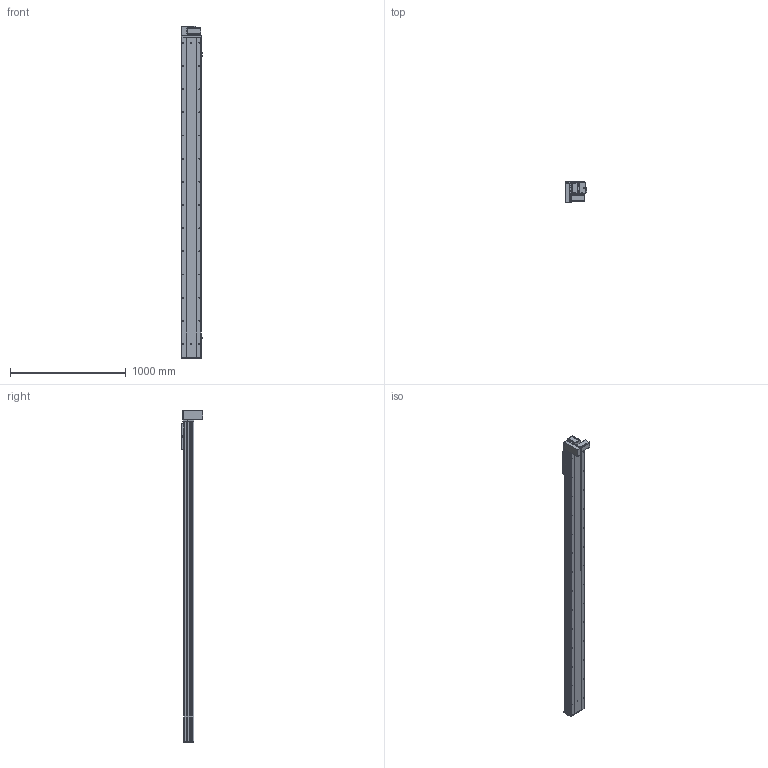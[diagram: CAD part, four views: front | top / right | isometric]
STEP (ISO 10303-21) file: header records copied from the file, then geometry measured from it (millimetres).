
FILE_DESCRIPTION (( 'STEP AP203' ), '1' );
FILE_NAME ('Y170CB-D105-S2450-BM-P400W.STEP', '2020-02-20T07:42:31', ( '微软用户' ), ( '微软中国' ), 'SwSTEP 2.0', 'SolidWorks 2017', '' );
FILE_SCHEMA (( 'CONFIG_CONTROL_DESIGN' ));
Length unit declared in the file: millimetre
Products named in the file (18): B-源倛裔啣; Y170CB-D105-S2450-BM-P400W; 0C--雄赽釱俋欶-170; 0B-萇儂楊擘啣; 70CB-詩湍--; san松下电机400不带刹车----; Y100-135俋离換覜ん--; 70CB-掛极-; Y170CB-陔俋离換覜結え---; --70CB --喘謫眊楊擘啣-; Y1埴倛裔; 70CB-耜裔啣-; 17B-耜蚾蟀諉啣----; 70C--詩湍揤踡え-; 00B-俋欶BM--163; 70CB--耜裔; 70B喘謫眊----; 70C-雄赽釱-奻-
Assembly tree (21 placements, depth 2):
  Y170CB-D105-S2450-BM-P400W
    B-源倛裔啣
    0B-萇儂楊擘啣
    san松下电机400不带刹车----
    70CB-掛极-
    --70CB --喘謫眊楊擘啣-
    70CB-耜裔啣-  x2
    70C--詩湍揤踡え-  x2
    70CB--耜裔
    70C-雄赽釱-奻-
    0C--雄赽釱俋欶-170
    70CB-詩湍--
    Y100-135俋离換覜ん--  x3
    Y170CB-陔俋离換覜結え---
    Y1埴倛裔
    17B-耜蚾蟀諉啣----
    00B-俋欶BM--163
    70B喘謫眊----
Bounding box: 183.5 x 184 x 2866 mm (x, y, z)
Volume: 12249034.8 mm3; surface area: 4422405.7 mm2
Topology: 21 solids, 21 shells, 1063 faces, 2861 edges, 1898 vertices
Faces by surface type: cylinder 577, plane 462, cone 24
Entity records: 34080 total; most frequent: CARTESIAN_POINT 6276, DIRECTION 5546, ORIENTED_EDGE 5204, EDGE_CURVE 2602, AXIS2_PLACEMENT_3D 2048, VERTEX_POINT 1728, VECTOR 1450, LINE 1450
